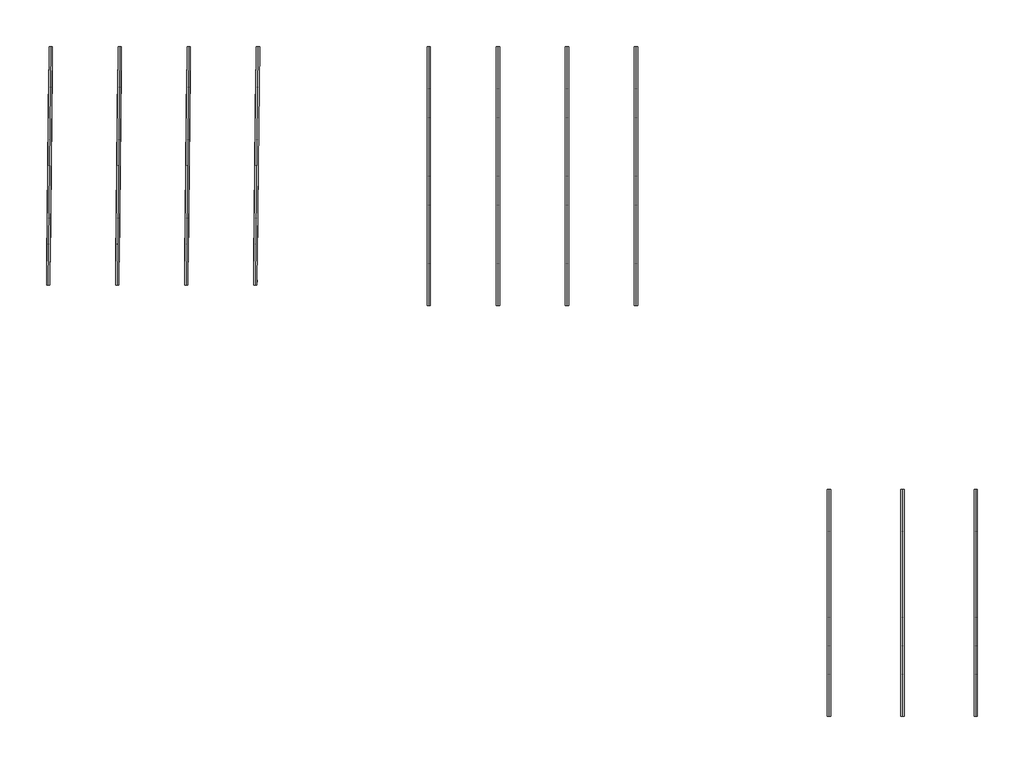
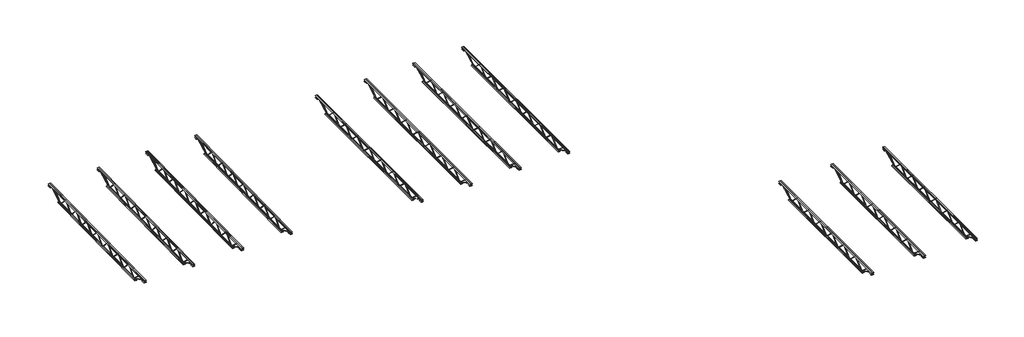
# One storey: 11 beams.
"""IFC4 building model written with IfcOpenShell, lengths in millimetres."""

from ifc_helpers import new_model, si_unit, origin, place, context, project, spatial, transform, mapped, element, save
from components import k_series_bar_joist_rod_web_12k1_a6bee375, k_series_bar_joist_rod_web_12k1_562b93e1, k_series_bar_joist_rod_web_12k1_8968bb53

model = new_model("IFC4")

# Units and contexts
model_context = context("Model", 3, world=origin())
ifc_project = project(units=[si_unit("LENGTHUNIT", "METRE", prefix="MILLI")], contexts=[model_context])

# Site, building, storey
site = spatial("IfcSite", under=ifc_project)
building = spatial("IfcBuilding", under=site)
storey = spatial("IfcBuildingStorey", under=building, Name="BOS-South & East Atrium Wall", Elevation=38125.4)

# Beams
placement = place(None, origin())
k_series_bar_joist_rod_web_12k1_shape = k_series_bar_joist_rod_web_12k1_a6bee375(model_context)
element("IfcBeam", 1, ObjectType="K-Series Bar Joist-Rod Web : 12K1", at=placement, inside=storey, context=model_context, shape_type="MappedRepresentation", body=[
    mapped(k_series_bar_joist_rod_web_12k1_shape, transform((4185.6045393, 4984.1570005, 38315.9), x_axis=(0.0, -1.0, 0.0), y_axis=(1.0, 0.0, 0.0), z_axis=(0.0, 0.0, 1.0))),
])
element("IfcBeam", 2, ObjectType="K-Series Bar Joist-Rod Web : 12K1", at=placement, inside=storey, context=model_context, shape_type="MappedRepresentation", body=[
    mapped(k_series_bar_joist_rod_web_12k1_shape, transform((2661.6045393, 4984.1570005, 38315.9), x_axis=(0.0, -1.0, 0.0), y_axis=(1.0, 0.0, 0.0), z_axis=(0.0, 0.0, 1.0))),
])
element("IfcBeam", 3, ObjectType="K-Series Bar Joist-Rod Web : 12K1", at=placement, inside=storey, context=model_context, shape_type="MappedRepresentation", body=[
    mapped(k_series_bar_joist_rod_web_12k1_shape, transform((1137.6045393, 4984.1570005, 38315.9), x_axis=(0.0, -1.0, 0.0), y_axis=(1.0, 0.0, 0.0), z_axis=(0.0, 0.0, 1.0))),
])
element("IfcBeam", 4, ObjectType="K-Series Bar Joist-Rod Web : 12K1", at=placement, inside=storey, context=model_context, shape_type="MappedRepresentation", body=[
    mapped(k_series_bar_joist_rod_web_12k1_shape, transform((-386.3954607, 4984.1570005, 38315.9), x_axis=(0.0, -1.0, 0.0), y_axis=(1.0, 0.0, 0.0), z_axis=(0.0, 0.0, 1.0))),
])
k_series_bar_joist_rod_web_12k1_2_shape = k_series_bar_joist_rod_web_12k1_562b93e1(model_context)
element("IfcBeam", 5, ObjectType="K-Series Bar Joist-Rod Web : 12K1", at=placement, inside=storey, context=model_context, shape_type="MappedRepresentation", body=[
    mapped(k_series_bar_joist_rod_web_12k1_2_shape, transform((11679.7951643, -4439.2429995, 38315.9), x_axis=(0.0, -1.0, 0.0), y_axis=(1.0, 0.0, 0.0), z_axis=(0.0, 0.0, 1.0))),
])
element("IfcBeam", 6, ObjectType="K-Series Bar Joist-Rod Web : 12K1", at=placement, inside=storey, context=model_context, shape_type="MappedRepresentation", body=[
    mapped(k_series_bar_joist_rod_web_12k1_2_shape, transform((10061.7357893, -4439.2429995, 38315.9), x_axis=(0.0, -1.0, 0.0), y_axis=(1.0, 0.0, 0.0), z_axis=(0.0, 0.0, 1.0))),
])
element("IfcBeam", 7, ObjectType="K-Series Bar Joist-Rod Web : 12K1", at=placement, inside=storey, context=model_context, shape_type="MappedRepresentation", body=[
    mapped(k_series_bar_joist_rod_web_12k1_2_shape, transform((8443.6764143, -4439.2429995, 38315.9), x_axis=(0.0, -1.0, 0.0), y_axis=(1.0, 0.0, 0.0), z_axis=(0.0, 0.0, 1.0))),
])
k_series_bar_joist_rod_web_12k1_3_shape = k_series_bar_joist_rod_web_12k1_8968bb53(model_context)
element("IfcBeam", 8, ObjectType="K-Series Bar Joist-Rod Web : 12K1", at=placement, inside=storey, context=model_context, shape_type="MappedRepresentation", body=[
    mapped(k_series_bar_joist_rod_web_12k1_3_shape, transform((-8753.9884159, 5212.7570005, 38315.9), x_axis=(0.010666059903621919, 0.9999431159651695, 0.0), y_axis=(-0.9999431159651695, 0.010666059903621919, 0.0), z_axis=(0.0, 0.0, 1.0))),
])
element("IfcBeam", 9, ObjectType="K-Series Bar Joist-Rod Web : 12K1", at=placement, inside=storey, context=model_context, shape_type="MappedRepresentation", body=[
    mapped(k_series_bar_joist_rod_web_12k1_3_shape, transform((-5707.8939216, 5212.7570005, 38315.9), x_axis=(0.010666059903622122, 0.9999431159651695, 0.0), y_axis=(-0.9999431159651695, 0.010666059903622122, 0.0), z_axis=(0.0, 0.0, 1.0))),
])
element("IfcBeam", 10, ObjectType="K-Series Bar Joist-Rod Web : 12K1", at=placement, inside=storey, context=model_context, shape_type="MappedRepresentation", body=[
    mapped(k_series_bar_joist_rod_web_12k1_3_shape, transform((-4184.8466745, 5212.7570005, 38315.9), x_axis=(0.010666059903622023, 0.9999431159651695, 0.0), y_axis=(-0.9999431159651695, 0.010666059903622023, 0.0), z_axis=(0.0, 0.0, 1.0))),
])
element("IfcBeam", 11, ObjectType="K-Series Bar Joist-Rod Web : 12K1", at=placement, inside=storey, context=model_context, shape_type="MappedRepresentation", body=[
    mapped(k_series_bar_joist_rod_web_12k1_3_shape, transform((-7230.9411688, 5212.7570005, 38315.9), x_axis=(0.010666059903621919, 0.9999431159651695, 0.0), y_axis=(-0.9999431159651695, 0.010666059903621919, 0.0), z_axis=(0.0, 0.0, 1.0))),
])

save(model, "model.ifc")
